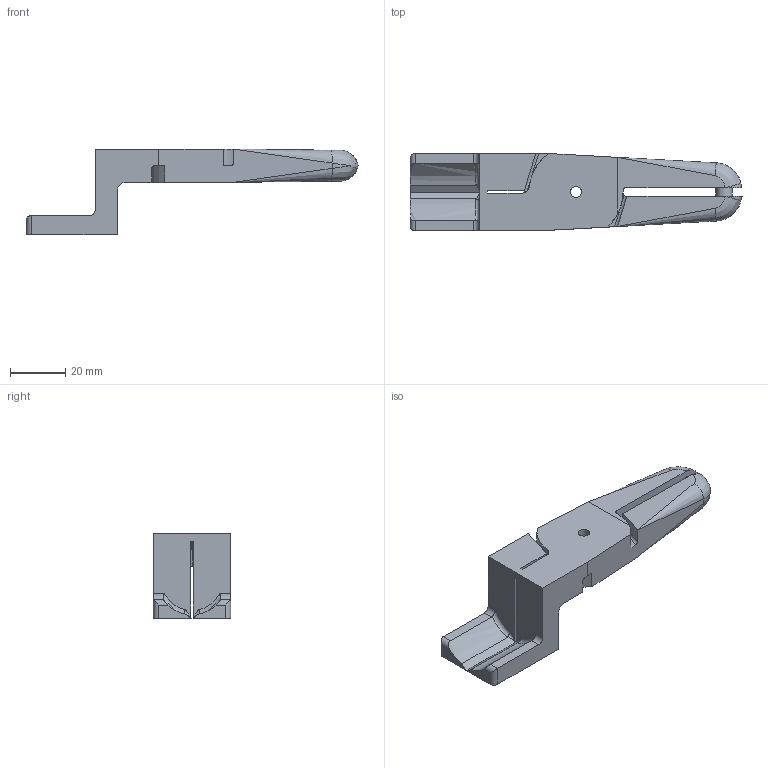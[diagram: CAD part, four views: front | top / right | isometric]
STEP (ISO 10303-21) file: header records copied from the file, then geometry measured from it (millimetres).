
FILE_DESCRIPTION(/* description */ (''),/* implementation_level */ '2;1');
FILE_NAME(/* name */ 'W:\Technik\Konstruktion\CAD-Daten\DJa\Vessel Schneidzangeneinsatz\N20AH\N20AH closed.stp',/* time_stamp */ '2016-09-06T12:42:05+02:00',/* author */ ('DJansen'),/* organization */ (''),/* preprocessor_version */ 'ST-DEVELOPER v16.1',/* originating_system */ 'Autodesk Inventor 2016',/* authorisation */ '');
FILE_SCHEMA (('AUTOMOTIVE_DESIGN { 1 0 10303 214 3 1 1 }'));
Length unit declared in the file: centimetre
Products named in the file (1): N20AH Baugruppe neu
Bounding box: 119.99 x 28 x 31 mm (x, y, z)
Volume: 31811 mm3; surface area: 12241 mm2
Topology: 1 solids, 1 shells, 94 faces, 260 edges, 157 vertices
Faces by surface type: plane 46, bspline 26, cylinder 22
Full cylindrical faces by diameter (mm): 4.1 x1, 6 x1
Entity records: 5289 total; most frequent: CARTESIAN_POINT 2966, ORIENTED_EDGE 502, DIRECTION 403, EDGE_CURVE 250, VERTEX_POINT 157, LINE 139, VECTOR 139, AXIS2_PLACEMENT_3D 132
